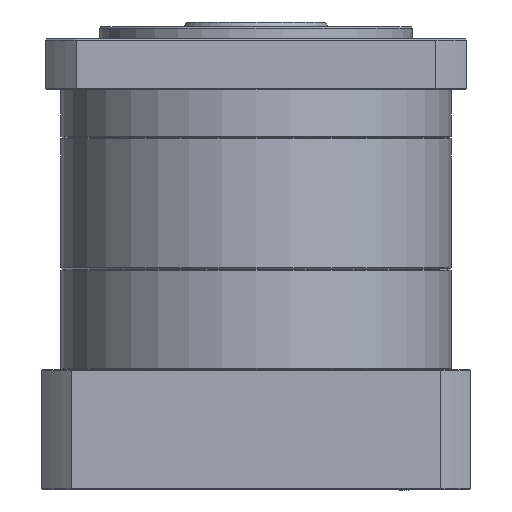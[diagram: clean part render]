
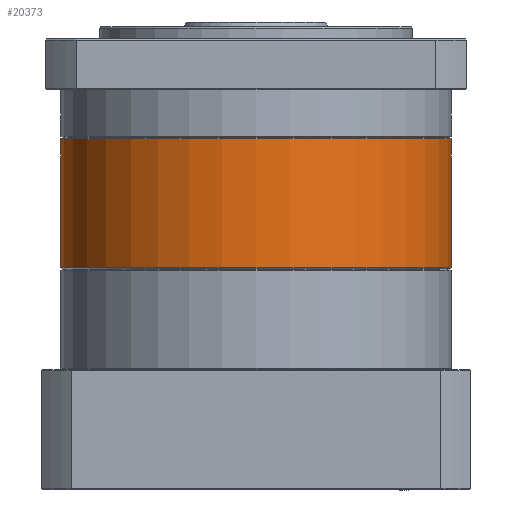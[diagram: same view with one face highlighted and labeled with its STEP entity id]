
A CAD part, front view. The second image highlights one B-rep face of the part: STEP entity #20373.
In plain terms, the highlighted cylindrical face has radius 81 mm (diameter 162 mm), a partial arc.
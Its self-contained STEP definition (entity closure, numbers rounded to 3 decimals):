
#969 = CYLINDRICAL_SURFACE ( 'NONE', #79950, 81. ) ;
#1188 = CARTESIAN_POINT ( 'NONE',  ( 94.484, 78.843, 44.918 ) ) ;
#1469 = AXIS2_PLACEMENT_3D ( 'NONE', #16533, #70848, #78683 ) ;
#4654 = VERTEX_POINT ( 'NONE', #36148 ) ;
#5702 = CARTESIAN_POINT ( 'NONE',  ( 94.484, 78.843, 45.418 ) ) ;
#7298 = VERTEX_POINT ( 'NONE', #27791 ) ;
#9130 = VECTOR ( 'NONE', #45056, 1000. ) ;
#9985 = CIRCLE ( 'NONE', #38428, 81. ) ;
#10567 = CIRCLE ( 'NONE', #70388, 81. ) ;
#12922 = DIRECTION ( 'NONE',  ( 0., 0., -1. ) ) ;
#13383 = CIRCLE ( 'NONE', #1469, 81. ) ;
#16533 = CARTESIAN_POINT ( 'NONE',  ( 175.484, 78.843, 45.418 ) ) ;
#19857 = ORIENTED_EDGE ( 'NONE', *, *, #68758, .T. ) ;
#20373 = ADVANCED_FACE ( 'NONE', ( #88361 ), #969, .T. ) ;
#21710 = DIRECTION ( 'NONE',  ( 1., 0., 0. ) ) ;
#22469 = ORIENTED_EDGE ( 'NONE', *, *, #92644, .F. ) ;
#25117 = CARTESIAN_POINT ( 'NONE',  ( 175.484, -2.157, 45.418 ) ) ;
#27791 = CARTESIAN_POINT ( 'NONE',  ( 256.484, 78.843, 98.918 ) ) ;
#31087 = DIRECTION ( 'NONE',  ( 0., 0., 1. ) ) ;
#32400 = EDGE_CURVE ( 'NONE', #4654, #58318, #13383, .T. ) ;
#36148 = CARTESIAN_POINT ( 'NONE',  ( 256.484, 78.843, 45.418 ) ) ;
#38428 = AXIS2_PLACEMENT_3D ( 'NONE', #77508, #45214, #70696 ) ;
#38642 = CARTESIAN_POINT ( 'NONE',  ( 94.484, 78.843, 98.918 ) ) ;
#38689 = CARTESIAN_POINT ( 'NONE',  ( 175.484, 78.843, 44.918 ) ) ;
#39715 = ORIENTED_EDGE ( 'NONE', *, *, #54691, .F. ) ;
#44732 = CARTESIAN_POINT ( 'NONE',  ( 175.484, 78.843, 98.918 ) ) ;
#45056 = DIRECTION ( 'NONE',  ( 0., 0., 1. ) ) ;
#45214 = DIRECTION ( 'NONE',  ( 0., 0., -1. ) ) ;
#45374 = CARTESIAN_POINT ( 'NONE',  ( 256.484, 78.843, 44.918 ) ) ;
#54691 = EDGE_CURVE ( 'NONE', #78226, #77008, #80420, .T. ) ;
#58318 = VERTEX_POINT ( 'NONE', #25117 ) ;
#60823 = VECTOR ( 'NONE', #31087, 1000. ) ;
#63198 = EDGE_CURVE ( 'NONE', #7298, #77008, #10567, .T. ) ;
#67886 = EDGE_LOOP ( 'NONE', ( #39715, #22469, #99049, #19857, #88084 ) ) ;
#68758 = EDGE_CURVE ( 'NONE', #4654, #7298, #77103, .T. ) ;
#70388 = AXIS2_PLACEMENT_3D ( 'NONE', #44732, #12922, #99165 ) ;
#70696 = DIRECTION ( 'NONE',  ( 0., 1., 0. ) ) ;
#70848 = DIRECTION ( 'NONE',  ( 0., 0., -1. ) ) ;
#77008 = VERTEX_POINT ( 'NONE', #38642 ) ;
#77103 = LINE ( 'NONE', #45374, #9130 ) ;
#77508 = CARTESIAN_POINT ( 'NONE',  ( 175.484, 78.843, 45.418 ) ) ;
#78226 = VERTEX_POINT ( 'NONE', #5702 ) ;
#78683 = DIRECTION ( 'NONE',  ( 0., 1., 0. ) ) ;
#79950 = AXIS2_PLACEMENT_3D ( 'NONE', #38689, #93054, #21710 ) ;
#80420 = LINE ( 'NONE', #1188, #60823 ) ;
#88084 = ORIENTED_EDGE ( 'NONE', *, *, #63198, .T. ) ;
#88361 = FACE_OUTER_BOUND ( 'NONE', #67886, .T. ) ;
#92644 = EDGE_CURVE ( 'NONE', #58318, #78226, #9985, .T. ) ;
#93054 = DIRECTION ( 'NONE',  ( 0., 0., 1. ) ) ;
#99049 = ORIENTED_EDGE ( 'NONE', *, *, #32400, .F. ) ;
#99165 = DIRECTION ( 'NONE',  ( 1., 0., 0. ) ) ;
